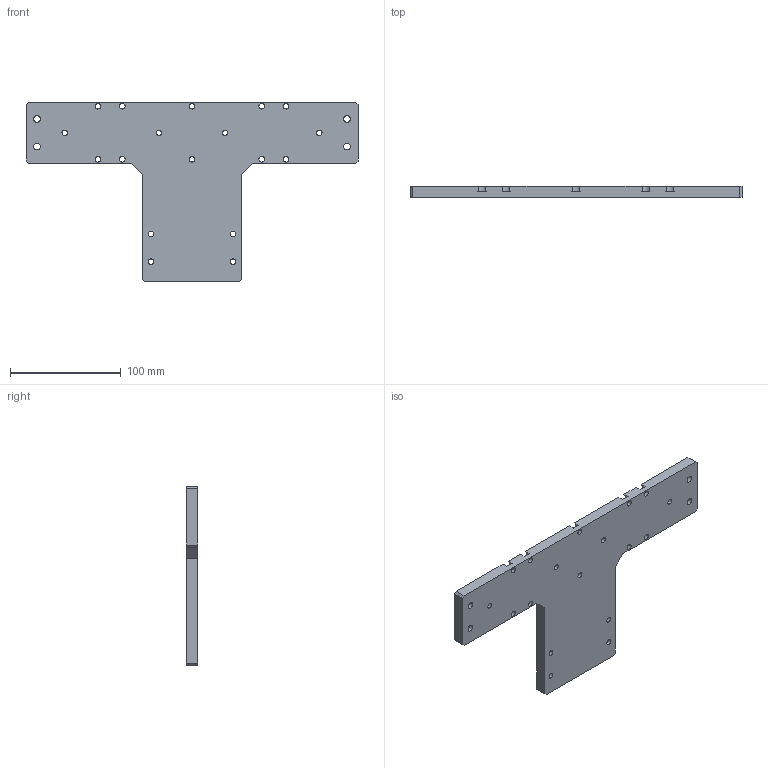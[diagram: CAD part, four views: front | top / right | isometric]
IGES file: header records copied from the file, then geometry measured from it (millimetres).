
Start section:  PTC IGES file: k60-k60l-ft.igs
Global section: file name: k60-k60l-ft.igs; native system: Pro/ENGINEER by Parametric Technology Corporation; preprocessor: 2008230; author: Owner; organization: Unknown; date: 20121212.104538; units: millimetre
Bounding box: 300 x 10 x 162 mm (x, y, z)
Surface area: 64897.1 mm2 (no closed solid volume)
Topology: 0 solids, 0 shells, 107 faces, 576 edges, 576 vertices
Faces by surface type: revolution 71, bspline 36
